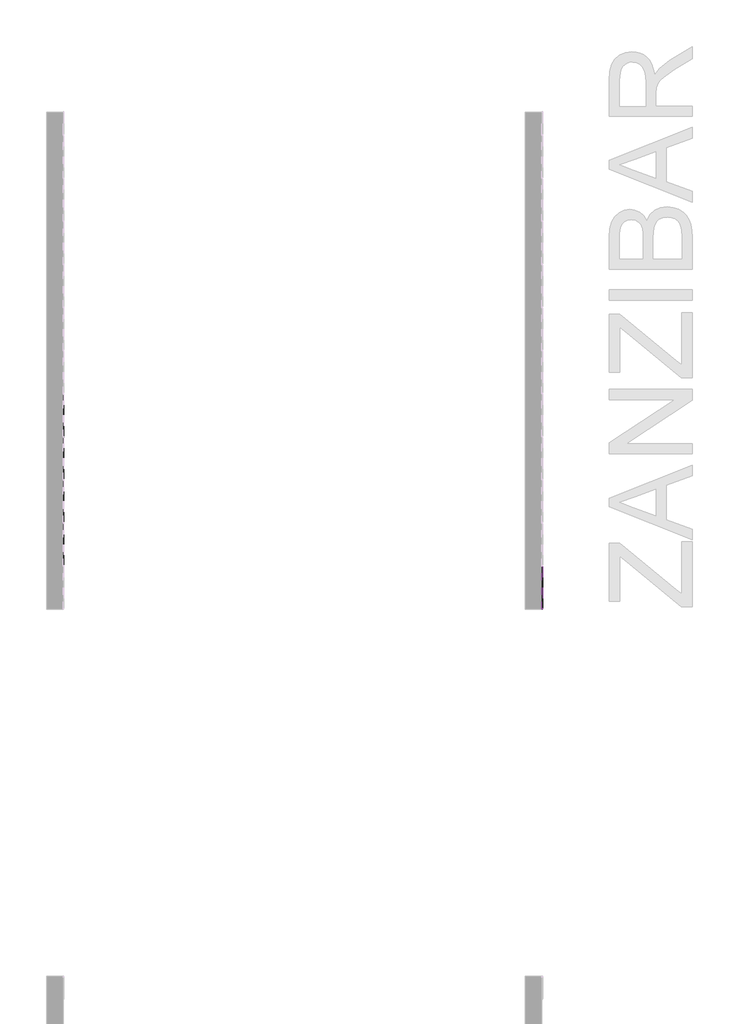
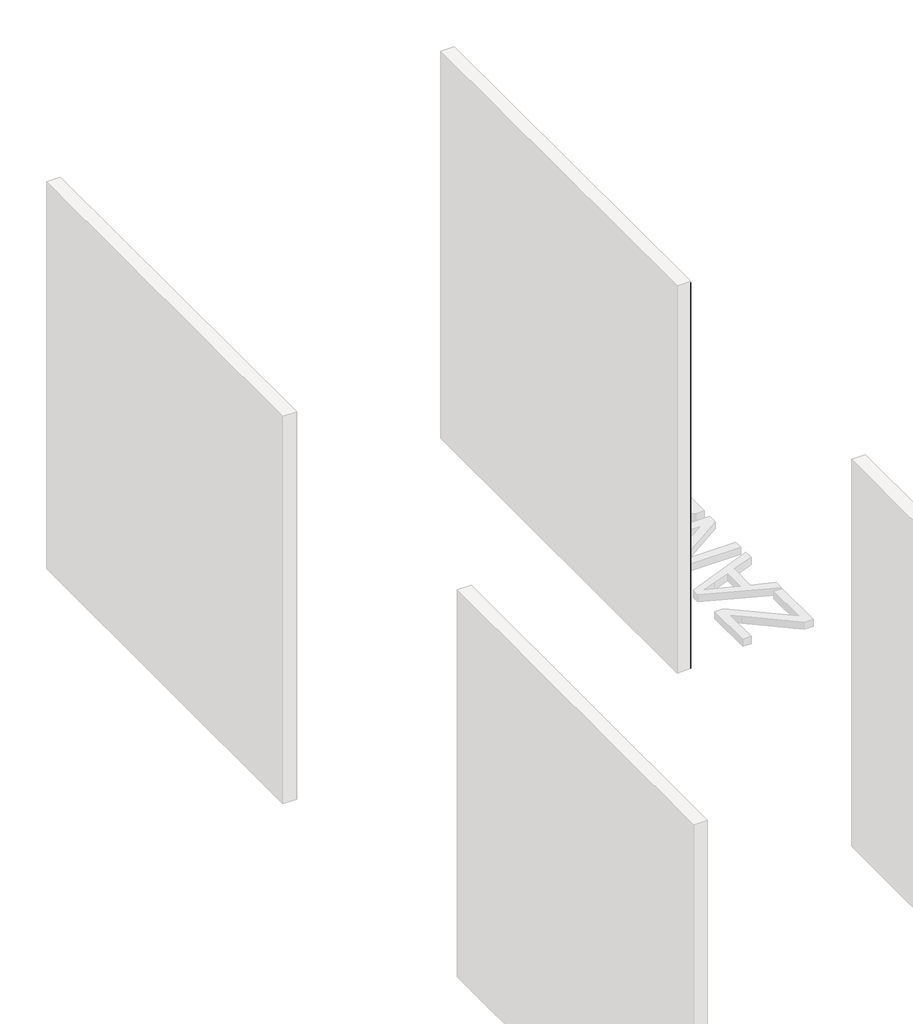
# One storey, part 39 of 45: 147 proxies.
"""IFC4 building model written with IfcOpenShell, lengths in millimetres."""

from ifc_helpers import new_model, si_unit, origin, place, context, project, spatial, transform, mapped, element, save
from components import generic_models_ab0f2c30

model = new_model("IFC4")

# Units and contexts
model_context = context("Model", 3, world=origin())
ifc_project = project(units=[si_unit("LENGTHUNIT", "METRE", prefix="MILLI")], contexts=[model_context])

# Site, building, storey
site = spatial("IfcSite", under=ifc_project)
building = spatial("IfcBuilding", under=site)
storey = spatial("IfcBuildingStorey", under=building, Name="PORTOBELLO - SHOWROOM", Elevation=0.0)

# Proxies
placement = place(None, origin())
generic_models_shape = generic_models_ab0f2c30(model_context)
element("IfcBuildingElementProxy", 1, Name="PBSHOP - HORIZONTES ZANZIBAR 6,5X23 : ZANZIBAR", ObjectType="PBSHOP - HORIZONTES ZANZIBAR 6,5X23 : ZANZIBAR", at=placement, inside=storey, context=model_context, shape_type="MappedRepresentation", body=[
    mapped(generic_models_shape, transform((69111.8826867, 19880.0864672, 34.5), x_axis=(0.0, 0.0, 1.0), y_axis=(0.0, -1.0, 0.0), z_axis=(1.0, 0.0, 0.0))),
])
element("IfcBuildingElementProxy", 2, Name="PBSHOP - HORIZONTES ZANZIBAR 6,5X23 : ZANZIBAR", ObjectType="PBSHOP - HORIZONTES ZANZIBAR 6,5X23 : ZANZIBAR", at=placement, inside=storey, context=model_context, shape_type="MappedRepresentation", body=[
    mapped(generic_models_shape, transform((69111.8826867, 19880.0864672, 103.5), x_axis=(0.0, 0.0, 1.0), y_axis=(0.0, -1.0, 0.0), z_axis=(1.0, 0.0, 0.0))),
])
element("IfcBuildingElementProxy", 3, Name="PBSHOP - HORIZONTES ZANZIBAR 6,5X23 : ZANZIBAR", ObjectType="PBSHOP - HORIZONTES ZANZIBAR 6,5X23 : ZANZIBAR", at=placement, inside=storey, context=model_context, shape_type="MappedRepresentation", body=[
    mapped(generic_models_shape, transform((69111.8826867, 19880.0864672, 172.5), x_axis=(0.0, 0.0, 1.0), y_axis=(0.0, -1.0, 0.0), z_axis=(1.0, 0.0, 0.0))),
])
element("IfcBuildingElementProxy", 4, Name="PBSHOP - HORIZONTES ZANZIBAR 6,5X23 : ZANZIBAR", ObjectType="PBSHOP - HORIZONTES ZANZIBAR 6,5X23 : ZANZIBAR", at=placement, inside=storey, context=model_context, shape_type="MappedRepresentation", body=[
    mapped(generic_models_shape, transform((69111.8826867, 19880.0864672, 241.5), x_axis=(0.0, 0.0, 1.0), y_axis=(0.0, -1.0, 0.0), z_axis=(1.0, 0.0, 0.0))),
])
element("IfcBuildingElementProxy", 5, Name="PBSHOP - HORIZONTES ZANZIBAR 6,5X23 : ZANZIBAR", ObjectType="PBSHOP - HORIZONTES ZANZIBAR 6,5X23 : ZANZIBAR", at=placement, inside=storey, context=model_context, shape_type="MappedRepresentation", body=[
    mapped(generic_models_shape, transform((69111.8826867, 19880.0864672, 310.5), x_axis=(0.0, 0.0, 1.0), y_axis=(0.0, -1.0, 0.0), z_axis=(1.0, 0.0, 0.0))),
])
element("IfcBuildingElementProxy", 6, Name="PBSHOP - HORIZONTES ZANZIBAR 6,5X23 : ZANZIBAR", ObjectType="PBSHOP - HORIZONTES ZANZIBAR 6,5X23 : ZANZIBAR", at=placement, inside=storey, context=model_context, shape_type="MappedRepresentation", body=[
    mapped(generic_models_shape, transform((69111.8826867, 19880.0864672, 379.5), x_axis=(0.0, 0.0, 1.0), y_axis=(0.0, -1.0, 0.0), z_axis=(1.0, 0.0, 0.0))),
])
element("IfcBuildingElementProxy", 7, Name="PBSHOP - HORIZONTES ZANZIBAR 6,5X23 : ZANZIBAR", ObjectType="PBSHOP - HORIZONTES ZANZIBAR 6,5X23 : ZANZIBAR", at=placement, inside=storey, context=model_context, shape_type="MappedRepresentation", body=[
    mapped(generic_models_shape, transform((69111.8826867, 19880.0864672, 448.5), x_axis=(0.0, 0.0, 1.0), y_axis=(0.0, -1.0, 0.0), z_axis=(1.0, 0.0, 0.0))),
])
element("IfcBuildingElementProxy", 8, Name="PBSHOP - HORIZONTES ZANZIBAR 6,5X23 : ZANZIBAR", ObjectType="PBSHOP - HORIZONTES ZANZIBAR 6,5X23 : ZANZIBAR", at=placement, inside=storey, context=model_context, shape_type="MappedRepresentation", body=[
    mapped(generic_models_shape, transform((69111.8826867, 19880.0864672, 517.5), x_axis=(0.0, 0.0, 1.0), y_axis=(0.0, -1.0, 0.0), z_axis=(1.0, 0.0, 0.0))),
])
element("IfcBuildingElementProxy", 9, Name="PBSHOP - HORIZONTES ZANZIBAR 6,5X23 : ZANZIBAR", ObjectType="PBSHOP - HORIZONTES ZANZIBAR 6,5X23 : ZANZIBAR", at=placement, inside=storey, context=model_context, shape_type="MappedRepresentation", body=[
    mapped(generic_models_shape, transform((69111.8826867, 19880.0864672, 586.5), x_axis=(0.0, 0.0, 1.0), y_axis=(0.0, -1.0, 0.0), z_axis=(1.0, 0.0, 0.0))),
])
element("IfcBuildingElementProxy", 10, Name="PBSHOP - HORIZONTES ZANZIBAR 6,5X23 : ZANZIBAR", ObjectType="PBSHOP - HORIZONTES ZANZIBAR 6,5X23 : ZANZIBAR", at=placement, inside=storey, context=model_context, shape_type="MappedRepresentation", body=[
    mapped(generic_models_shape, transform((69111.8826867, 19880.0864672, 655.5), x_axis=(0.0, 0.0, 1.0), y_axis=(0.0, -1.0, 0.0), z_axis=(1.0, 0.0, 0.0))),
])
element("IfcBuildingElementProxy", 11, Name="PBSHOP - HORIZONTES ZANZIBAR 6,5X23 : ZANZIBAR", ObjectType="PBSHOP - HORIZONTES ZANZIBAR 6,5X23 : ZANZIBAR", at=placement, inside=storey, context=model_context, shape_type="MappedRepresentation", body=[
    mapped(generic_models_shape, transform((69111.8826867, 19880.0864672, 724.5), x_axis=(0.0, 0.0, 1.0), y_axis=(0.0, -1.0, 0.0), z_axis=(1.0, 0.0, 0.0))),
])
element("IfcBuildingElementProxy", 12, Name="PBSHOP - HORIZONTES ZANZIBAR 6,5X23 : ZANZIBAR", ObjectType="PBSHOP - HORIZONTES ZANZIBAR 6,5X23 : ZANZIBAR", at=placement, inside=storey, context=model_context, shape_type="MappedRepresentation", body=[
    mapped(generic_models_shape, transform((69111.8826867, 19880.0864672, 793.5), x_axis=(0.0, 0.0, 1.0), y_axis=(0.0, -1.0, 0.0), z_axis=(1.0, 0.0, 0.0))),
])
element("IfcBuildingElementProxy", 13, Name="PBSHOP - HORIZONTES ZANZIBAR 6,5X23 : ZANZIBAR", ObjectType="PBSHOP - HORIZONTES ZANZIBAR 6,5X23 : ZANZIBAR", at=placement, inside=storey, context=model_context, shape_type="MappedRepresentation", body=[
    mapped(generic_models_shape, transform((69111.8826867, 19880.0864672, 862.5), x_axis=(0.0, 0.0, 1.0), y_axis=(0.0, -1.0, 0.0), z_axis=(1.0, 0.0, 0.0))),
])
element("IfcBuildingElementProxy", 14, Name="PBSHOP - HORIZONTES ZANZIBAR 6,5X23 : ZANZIBAR", ObjectType="PBSHOP - HORIZONTES ZANZIBAR 6,5X23 : ZANZIBAR", at=placement, inside=storey, context=model_context, shape_type="MappedRepresentation", body=[
    mapped(generic_models_shape, transform((69111.8826867, 19880.0864672, 931.5), x_axis=(0.0, 0.0, 1.0), y_axis=(0.0, -1.0, 0.0), z_axis=(1.0, 0.0, 0.0))),
])
element("IfcBuildingElementProxy", 15, Name="PBSHOP - HORIZONTES ZANZIBAR 6,5X23 : ZANZIBAR", ObjectType="PBSHOP - HORIZONTES ZANZIBAR 6,5X23 : ZANZIBAR", at=placement, inside=storey, context=model_context, shape_type="MappedRepresentation", body=[
    mapped(generic_models_shape, transform((69111.8826867, 19880.0864672, 1000.5), x_axis=(0.0, 0.0, 1.0), y_axis=(0.0, -1.0, 0.0), z_axis=(1.0, 0.0, 0.0))),
])
element("IfcBuildingElementProxy", 16, Name="PBSHOP - HORIZONTES ZANZIBAR 6,5X23 : ZANZIBAR", ObjectType="PBSHOP - HORIZONTES ZANZIBAR 6,5X23 : ZANZIBAR", at=placement, inside=storey, context=model_context, shape_type="MappedRepresentation", body=[
    mapped(generic_models_shape, transform((69111.8826867, 19880.0864672, 1069.5), x_axis=(0.0, 0.0, 1.0), y_axis=(0.0, -1.0, 0.0), z_axis=(1.0, 0.0, 0.0))),
])
element("IfcBuildingElementProxy", 17, Name="PBSHOP - HORIZONTES ZANZIBAR 6,5X23 : ZANZIBAR", ObjectType="PBSHOP - HORIZONTES ZANZIBAR 6,5X23 : ZANZIBAR", at=placement, inside=storey, context=model_context, shape_type="MappedRepresentation", body=[
    mapped(generic_models_shape, transform((69111.8826867, 19880.0864672, 1138.5), x_axis=(0.0, 0.0, 1.0), y_axis=(0.0, -1.0, 0.0), z_axis=(1.0, 0.0, 0.0))),
])
element("IfcBuildingElementProxy", 18, Name="PBSHOP - HORIZONTES ZANZIBAR 6,5X23 : ZANZIBAR", ObjectType="PBSHOP - HORIZONTES ZANZIBAR 6,5X23 : ZANZIBAR", at=placement, inside=storey, context=model_context, shape_type="MappedRepresentation", body=[
    mapped(generic_models_shape, transform((69111.8826867, 19880.0864672, 1207.5), x_axis=(0.0, 0.0, 1.0), y_axis=(0.0, -1.0, 0.0), z_axis=(1.0, 0.0, 0.0))),
])
element("IfcBuildingElementProxy", 19, Name="PBSHOP - HORIZONTES ZANZIBAR 6,5X23 : ZANZIBAR", ObjectType="PBSHOP - HORIZONTES ZANZIBAR 6,5X23 : ZANZIBAR", at=placement, inside=storey, context=model_context, shape_type="MappedRepresentation", body=[
    mapped(generic_models_shape, transform((69111.8826867, 19880.0864672, 1276.5), x_axis=(0.0, 0.0, 1.0), y_axis=(0.0, -1.0, 0.0), z_axis=(1.0, 0.0, 0.0))),
])
element("IfcBuildingElementProxy", 20, Name="PBSHOP - HORIZONTES ZANZIBAR 6,5X23 : ZANZIBAR", ObjectType="PBSHOP - HORIZONTES ZANZIBAR 6,5X23 : ZANZIBAR", at=placement, inside=storey, context=model_context, shape_type="MappedRepresentation", body=[
    mapped(generic_models_shape, transform((69111.8826867, 19880.0864672, 1345.5), x_axis=(0.0, 0.0, 1.0), y_axis=(0.0, -1.0, 0.0), z_axis=(1.0, 0.0, 0.0))),
])
element("IfcBuildingElementProxy", 21, Name="PBSHOP - HORIZONTES ZANZIBAR 6,5X23 : ZANZIBAR", ObjectType="PBSHOP - HORIZONTES ZANZIBAR 6,5X23 : ZANZIBAR", at=placement, inside=storey, context=model_context, shape_type="MappedRepresentation", body=[
    mapped(generic_models_shape, transform((69111.8826867, 19880.0864672, 1414.5), x_axis=(0.0, 0.0, 1.0), y_axis=(0.0, -1.0, 0.0), z_axis=(1.0, 0.0, 0.0))),
])
element("IfcBuildingElementProxy", 22, Name="PBSHOP - HORIZONTES ZANZIBAR 6,5X23 : ZANZIBAR", ObjectType="PBSHOP - HORIZONTES ZANZIBAR 6,5X23 : ZANZIBAR", at=placement, inside=storey, context=model_context, shape_type="MappedRepresentation", body=[
    mapped(generic_models_shape, transform((69111.8826867, 19880.0864672, 1483.5), x_axis=(0.0, 0.0, 1.0), y_axis=(0.0, -1.0, 0.0), z_axis=(1.0, 0.0, 0.0))),
])
element("IfcBuildingElementProxy", 23, Name="PBSHOP - HORIZONTES ZANZIBAR 6,5X23 : ZANZIBAR", ObjectType="PBSHOP - HORIZONTES ZANZIBAR 6,5X23 : ZANZIBAR", at=placement, inside=storey, context=model_context, shape_type="MappedRepresentation", body=[
    mapped(generic_models_shape, transform((69111.8826867, 19880.0864672, 1552.5), x_axis=(0.0, 0.0, 1.0), y_axis=(0.0, -1.0, 0.0), z_axis=(1.0, 0.0, 0.0))),
])
element("IfcBuildingElementProxy", 24, Name="PBSHOP - HORIZONTES ZANZIBAR 6,5X23 : ZANZIBAR", ObjectType="PBSHOP - HORIZONTES ZANZIBAR 6,5X23 : ZANZIBAR", at=placement, inside=storey, context=model_context, shape_type="MappedRepresentation", body=[
    mapped(generic_models_shape, transform((69111.8826867, 19880.0864672, 1621.5), x_axis=(0.0, 0.0, 1.0), y_axis=(0.0, -1.0, 0.0), z_axis=(1.0, 0.0, 0.0))),
])
element("IfcBuildingElementProxy", 25, Name="PBSHOP - HORIZONTES ZANZIBAR 6,5X23 : ZANZIBAR", ObjectType="PBSHOP - HORIZONTES ZANZIBAR 6,5X23 : ZANZIBAR", at=placement, inside=storey, context=model_context, shape_type="MappedRepresentation", body=[
    mapped(generic_models_shape, transform((69111.8826867, 19880.0864672, 1690.5), x_axis=(0.0, 0.0, 1.0), y_axis=(0.0, -1.0, 0.0), z_axis=(1.0, 0.0, 0.0))),
])
element("IfcBuildingElementProxy", 26, Name="PBSHOP - HORIZONTES ZANZIBAR 6,5X23 : ZANZIBAR", ObjectType="PBSHOP - HORIZONTES ZANZIBAR 6,5X23 : ZANZIBAR", at=placement, inside=storey, context=model_context, shape_type="MappedRepresentation", body=[
    mapped(generic_models_shape, transform((69111.8826867, 19880.0864672, 1759.5), x_axis=(0.0, 0.0, 1.0), y_axis=(0.0, -1.0, 0.0), z_axis=(1.0, 0.0, 0.0))),
])
element("IfcBuildingElementProxy", 27, Name="PBSHOP - HORIZONTES ZANZIBAR 6,5X23 : ZANZIBAR", ObjectType="PBSHOP - HORIZONTES ZANZIBAR 6,5X23 : ZANZIBAR", at=placement, inside=storey, context=model_context, shape_type="MappedRepresentation", body=[
    mapped(generic_models_shape, transform((69111.8826867, 19880.0864672, 1828.5), x_axis=(0.0, 0.0, 1.0), y_axis=(0.0, -1.0, 0.0), z_axis=(1.0, 0.0, 0.0))),
])
element("IfcBuildingElementProxy", 28, Name="PBSHOP - HORIZONTES ZANZIBAR 6,5X23 : ZANZIBAR", ObjectType="PBSHOP - HORIZONTES ZANZIBAR 6,5X23 : ZANZIBAR", at=placement, inside=storey, context=model_context, shape_type="MappedRepresentation", body=[
    mapped(generic_models_shape, transform((69111.8826867, 19880.0864672, 1897.5), x_axis=(0.0, 0.0, 1.0), y_axis=(0.0, -1.0, 0.0), z_axis=(1.0, 0.0, 0.0))),
])
element("IfcBuildingElementProxy", 29, Name="PBSHOP - HORIZONTES ZANZIBAR 6,5X23 : ZANZIBAR", ObjectType="PBSHOP - HORIZONTES ZANZIBAR 6,5X23 : ZANZIBAR", at=placement, inside=storey, context=model_context, shape_type="MappedRepresentation", body=[
    mapped(generic_models_shape, transform((69111.8826867, 19880.0864672, 1966.5), x_axis=(0.0, 0.0, 1.0), y_axis=(0.0, -1.0, 0.0), z_axis=(1.0, 0.0, 0.0))),
])
element("IfcBuildingElementProxy", 30, Name="PBSHOP - HORIZONTES ZANZIBAR 6,5X23 : ZANZIBAR", ObjectType="PBSHOP - HORIZONTES ZANZIBAR 6,5X23 : ZANZIBAR", at=placement, inside=storey, context=model_context, shape_type="MappedRepresentation", body=[
    mapped(generic_models_shape, transform((69111.8826867, 19880.0864672, 2035.5), x_axis=(0.0, 0.0, 1.0), y_axis=(0.0, -1.0, 0.0), z_axis=(1.0, 0.0, 0.0))),
])
element("IfcBuildingElementProxy", 31, Name="PBSHOP - HORIZONTES ZANZIBAR 6,5X23 : ZANZIBAR", ObjectType="PBSHOP - HORIZONTES ZANZIBAR 6,5X23 : ZANZIBAR", at=placement, inside=storey, context=model_context, shape_type="MappedRepresentation", body=[
    mapped(generic_models_shape, transform((69111.8826867, 19880.0864672, 2104.5), x_axis=(0.0, 0.0, 1.0), y_axis=(0.0, -1.0, 0.0), z_axis=(1.0, 0.0, 0.0))),
])
element("IfcBuildingElementProxy", 32, Name="PBSHOP - HORIZONTES ZANZIBAR 6,5X23 : ZANZIBAR", ObjectType="PBSHOP - HORIZONTES ZANZIBAR 6,5X23 : ZANZIBAR", at=placement, inside=storey, context=model_context, shape_type="MappedRepresentation", body=[
    mapped(generic_models_shape, transform((69111.8826867, 19880.0864672, 2173.5), x_axis=(0.0, 0.0, 1.0), y_axis=(0.0, -1.0, 0.0), z_axis=(1.0, 0.0, 0.0))),
])
element("IfcBuildingElementProxy", 33, Name="PBSHOP - HORIZONTES ZANZIBAR 6,5X23 : ZANZIBAR", ObjectType="PBSHOP - HORIZONTES ZANZIBAR 6,5X23 : ZANZIBAR", at=placement, inside=storey, context=model_context, shape_type="MappedRepresentation", body=[
    mapped(generic_models_shape, transform((69111.8826867, 19880.0864672, 2242.5), x_axis=(0.0, 0.0, 1.0), y_axis=(0.0, -1.0, 0.0), z_axis=(1.0, 0.0, 0.0))),
])
element("IfcBuildingElementProxy", 34, Name="PBSHOP - HORIZONTES ZANZIBAR 6,5X23 : ZANZIBAR", ObjectType="PBSHOP - HORIZONTES ZANZIBAR 6,5X23 : ZANZIBAR", at=placement, inside=storey, context=model_context, shape_type="MappedRepresentation", body=[
    mapped(generic_models_shape, transform((69111.8826867, 19880.0864672, 2311.5), x_axis=(0.0, 0.0, 1.0), y_axis=(0.0, -1.0, 0.0), z_axis=(1.0, 0.0, 0.0))),
])
element("IfcBuildingElementProxy", 35, Name="PBSHOP - HORIZONTES ZANZIBAR 6,5X23 : ZANZIBAR", ObjectType="PBSHOP - HORIZONTES ZANZIBAR 6,5X23 : ZANZIBAR", at=placement, inside=storey, context=model_context, shape_type="MappedRepresentation", body=[
    mapped(generic_models_shape, transform((69111.8826867, 19880.0864672, 2380.5), x_axis=(0.0, 0.0, 1.0), y_axis=(0.0, -1.0, 0.0), z_axis=(1.0, 0.0, 0.0))),
])
element("IfcBuildingElementProxy", 36, Name="PBSHOP - HORIZONTES ZANZIBAR 6,5X23 : ZANZIBAR", ObjectType="PBSHOP - HORIZONTES ZANZIBAR 6,5X23 : ZANZIBAR", at=placement, inside=storey, context=model_context, shape_type="MappedRepresentation", body=[
    mapped(generic_models_shape, transform((69111.8826867, 19880.0864672, 2449.5), x_axis=(0.0, 0.0, 1.0), y_axis=(0.0, -1.0, 0.0), z_axis=(1.0, 0.0, 0.0))),
])
element("IfcBuildingElementProxy", 37, Name="PBSHOP - HORIZONTES ZANZIBAR 6,5X23 : ZANZIBAR", ObjectType="PBSHOP - HORIZONTES ZANZIBAR 6,5X23 : ZANZIBAR", at=placement, inside=storey, context=model_context, shape_type="MappedRepresentation", body=[
    mapped(generic_models_shape, transform((69111.8826867, 19880.0864672, 2518.5), x_axis=(0.0, 0.0, 1.0), y_axis=(0.0, -1.0, 0.0), z_axis=(1.0, 0.0, 0.0))),
])
element("IfcBuildingElementProxy", 38, Name="PBSHOP - HORIZONTES ZANZIBAR 6,5X23 : ZANZIBAR", ObjectType="PBSHOP - HORIZONTES ZANZIBAR 6,5X23 : ZANZIBAR", at=placement, inside=storey, context=model_context, shape_type="MappedRepresentation", body=[
    mapped(generic_models_shape, transform((69111.8826867, 19880.0864672, 2587.5), x_axis=(0.0, 0.0, 1.0), y_axis=(0.0, -1.0, 0.0), z_axis=(1.0, 0.0, 0.0))),
])
element("IfcBuildingElementProxy", 39, Name="PBSHOP - HORIZONTES ZANZIBAR 6,5X23 : ZANZIBAR", ObjectType="PBSHOP - HORIZONTES ZANZIBAR 6,5X23 : ZANZIBAR", at=placement, inside=storey, context=model_context, shape_type="MappedRepresentation", body=[
    mapped(generic_models_shape, transform((69111.8826867, 19880.0864672, 2656.5), x_axis=(0.0, 0.0, 1.0), y_axis=(0.0, -1.0, 0.0), z_axis=(1.0, 0.0, 0.0))),
])
element("IfcBuildingElementProxy", 40, Name="PBSHOP - HORIZONTES ZANZIBAR 6,5X23 : ZANZIBAR ARQUIPELAGO", ObjectType="PBSHOP - HORIZONTES ZANZIBAR 6,5X23 : ZANZIBAR ARQUIPELAGO", at=placement, inside=storey, context=model_context, shape_type="MappedRepresentation", body=[
    mapped(generic_models_shape, transform((66511.8826867, 20114.0864672, 34.5), x_axis=(0.0, 0.0, 1.0), y_axis=(0.0, -1.0, 0.0), z_axis=(1.0, 0.0, 0.0))),
])
element("IfcBuildingElementProxy", 41, Name="PBSHOP - HORIZONTES ZANZIBAR 6,5X23 : ZANZIBAR ARQUIPELAGO", ObjectType="PBSHOP - HORIZONTES ZANZIBAR 6,5X23 : ZANZIBAR ARQUIPELAGO", at=placement, inside=storey, context=model_context, shape_type="MappedRepresentation", body=[
    mapped(generic_models_shape, transform((66511.8826867, 20348.0864672, 34.5), x_axis=(0.0, 0.0, 1.0), y_axis=(0.0, -1.0, 0.0), z_axis=(1.0, 0.0, 0.0))),
])
element("IfcBuildingElementProxy", 42, Name="PBSHOP - HORIZONTES ZANZIBAR 6,5X23 : ZANZIBAR ARQUIPELAGO", ObjectType="PBSHOP - HORIZONTES ZANZIBAR 6,5X23 : ZANZIBAR ARQUIPELAGO", at=placement, inside=storey, context=model_context, shape_type="MappedRepresentation", body=[
    mapped(generic_models_shape, transform((66511.8826867, 20582.0864672, 34.5), x_axis=(0.0, 0.0, 1.0), y_axis=(0.0, -1.0, 0.0), z_axis=(1.0, 0.0, 0.0))),
])
element("IfcBuildingElementProxy", 43, Name="PBSHOP - HORIZONTES ZANZIBAR 6,5X23 : ZANZIBAR ARQUIPELAGO", ObjectType="PBSHOP - HORIZONTES ZANZIBAR 6,5X23 : ZANZIBAR ARQUIPELAGO", at=placement, inside=storey, context=model_context, shape_type="MappedRepresentation", body=[
    mapped(generic_models_shape, transform((66511.8826867, 20816.0864672, 34.5), x_axis=(0.0, 0.0, 1.0), y_axis=(0.0, -1.0, 0.0), z_axis=(1.0, 0.0, 0.0))),
])
element("IfcBuildingElementProxy", 44, Name="PBSHOP - HORIZONTES ZANZIBAR 6,5X23 : ZANZIBAR ARQUIPELAGO", ObjectType="PBSHOP - HORIZONTES ZANZIBAR 6,5X23 : ZANZIBAR ARQUIPELAGO", at=placement, inside=storey, context=model_context, shape_type="MappedRepresentation", body=[
    mapped(generic_models_shape, transform((66511.8826867, 20114.0864672, 103.5), x_axis=(0.0, 0.0, 1.0), y_axis=(0.0, -1.0, 0.0), z_axis=(1.0, 0.0, 0.0))),
])
element("IfcBuildingElementProxy", 45, Name="PBSHOP - HORIZONTES ZANZIBAR 6,5X23 : ZANZIBAR ARQUIPELAGO", ObjectType="PBSHOP - HORIZONTES ZANZIBAR 6,5X23 : ZANZIBAR ARQUIPELAGO", at=placement, inside=storey, context=model_context, shape_type="MappedRepresentation", body=[
    mapped(generic_models_shape, transform((66511.8826867, 20348.0864672, 103.5), x_axis=(0.0, 0.0, 1.0), y_axis=(0.0, -1.0, 0.0), z_axis=(1.0, 0.0, 0.0))),
])
element("IfcBuildingElementProxy", 46, Name="PBSHOP - HORIZONTES ZANZIBAR 6,5X23 : ZANZIBAR ARQUIPELAGO", ObjectType="PBSHOP - HORIZONTES ZANZIBAR 6,5X23 : ZANZIBAR ARQUIPELAGO", at=placement, inside=storey, context=model_context, shape_type="MappedRepresentation", body=[
    mapped(generic_models_shape, transform((66511.8826867, 20582.0864672, 103.5), x_axis=(0.0, 0.0, 1.0), y_axis=(0.0, -1.0, 0.0), z_axis=(1.0, 0.0, 0.0))),
])
element("IfcBuildingElementProxy", 47, Name="PBSHOP - HORIZONTES ZANZIBAR 6,5X23 : ZANZIBAR ARQUIPELAGO", ObjectType="PBSHOP - HORIZONTES ZANZIBAR 6,5X23 : ZANZIBAR ARQUIPELAGO", at=placement, inside=storey, context=model_context, shape_type="MappedRepresentation", body=[
    mapped(generic_models_shape, transform((66511.8826867, 20816.0864672, 103.5), x_axis=(0.0, 0.0, 1.0), y_axis=(0.0, -1.0, 0.0), z_axis=(1.0, 0.0, 0.0))),
])
element("IfcBuildingElementProxy", 48, Name="PBSHOP - HORIZONTES ZANZIBAR 6,5X23 : ZANZIBAR ARQUIPELAGO", ObjectType="PBSHOP - HORIZONTES ZANZIBAR 6,5X23 : ZANZIBAR ARQUIPELAGO", at=placement, inside=storey, context=model_context, shape_type="MappedRepresentation", body=[
    mapped(generic_models_shape, transform((66511.8826867, 20114.0864672, 172.5), x_axis=(0.0, 0.0, 1.0), y_axis=(0.0, -1.0, 0.0), z_axis=(1.0, 0.0, 0.0))),
])
element("IfcBuildingElementProxy", 49, Name="PBSHOP - HORIZONTES ZANZIBAR 6,5X23 : ZANZIBAR ARQUIPELAGO", ObjectType="PBSHOP - HORIZONTES ZANZIBAR 6,5X23 : ZANZIBAR ARQUIPELAGO", at=placement, inside=storey, context=model_context, shape_type="MappedRepresentation", body=[
    mapped(generic_models_shape, transform((66511.8826867, 20348.0864672, 172.5), x_axis=(0.0, 0.0, 1.0), y_axis=(0.0, -1.0, 0.0), z_axis=(1.0, 0.0, 0.0))),
])
element("IfcBuildingElementProxy", 50, Name="PBSHOP - HORIZONTES ZANZIBAR 6,5X23 : ZANZIBAR ARQUIPELAGO", ObjectType="PBSHOP - HORIZONTES ZANZIBAR 6,5X23 : ZANZIBAR ARQUIPELAGO", at=placement, inside=storey, context=model_context, shape_type="MappedRepresentation", body=[
    mapped(generic_models_shape, transform((66511.8826867, 20582.0864672, 172.5), x_axis=(0.0, 0.0, 1.0), y_axis=(0.0, -1.0, 0.0), z_axis=(1.0, 0.0, 0.0))),
])
element("IfcBuildingElementProxy", 51, Name="PBSHOP - HORIZONTES ZANZIBAR 6,5X23 : ZANZIBAR ARQUIPELAGO", ObjectType="PBSHOP - HORIZONTES ZANZIBAR 6,5X23 : ZANZIBAR ARQUIPELAGO", at=placement, inside=storey, context=model_context, shape_type="MappedRepresentation", body=[
    mapped(generic_models_shape, transform((66511.8826867, 20816.0864672, 172.5), x_axis=(0.0, 0.0, 1.0), y_axis=(0.0, -1.0, 0.0), z_axis=(1.0, 0.0, 0.0))),
])
element("IfcBuildingElementProxy", 52, Name="PBSHOP - HORIZONTES ZANZIBAR 6,5X23 : ZANZIBAR ARQUIPELAGO", ObjectType="PBSHOP - HORIZONTES ZANZIBAR 6,5X23 : ZANZIBAR ARQUIPELAGO", at=placement, inside=storey, context=model_context, shape_type="MappedRepresentation", body=[
    mapped(generic_models_shape, transform((66511.8826867, 20114.0864672, 241.5), x_axis=(0.0, 0.0, 1.0), y_axis=(0.0, -1.0, 0.0), z_axis=(1.0, 0.0, 0.0))),
])
element("IfcBuildingElementProxy", 53, Name="PBSHOP - HORIZONTES ZANZIBAR 6,5X23 : ZANZIBAR ARQUIPELAGO", ObjectType="PBSHOP - HORIZONTES ZANZIBAR 6,5X23 : ZANZIBAR ARQUIPELAGO", at=placement, inside=storey, context=model_context, shape_type="MappedRepresentation", body=[
    mapped(generic_models_shape, transform((66511.8826867, 20348.0864672, 241.5), x_axis=(0.0, 0.0, 1.0), y_axis=(0.0, -1.0, 0.0), z_axis=(1.0, 0.0, 0.0))),
])
element("IfcBuildingElementProxy", 54, Name="PBSHOP - HORIZONTES ZANZIBAR 6,5X23 : ZANZIBAR ARQUIPELAGO", ObjectType="PBSHOP - HORIZONTES ZANZIBAR 6,5X23 : ZANZIBAR ARQUIPELAGO", at=placement, inside=storey, context=model_context, shape_type="MappedRepresentation", body=[
    mapped(generic_models_shape, transform((66511.8826867, 20582.0864672, 241.5), x_axis=(0.0, 0.0, 1.0), y_axis=(0.0, -1.0, 0.0), z_axis=(1.0, 0.0, 0.0))),
])
element("IfcBuildingElementProxy", 55, Name="PBSHOP - HORIZONTES ZANZIBAR 6,5X23 : ZANZIBAR ARQUIPELAGO", ObjectType="PBSHOP - HORIZONTES ZANZIBAR 6,5X23 : ZANZIBAR ARQUIPELAGO", at=placement, inside=storey, context=model_context, shape_type="MappedRepresentation", body=[
    mapped(generic_models_shape, transform((66511.8826867, 20816.0864672, 241.5), x_axis=(0.0, 0.0, 1.0), y_axis=(0.0, -1.0, 0.0), z_axis=(1.0, 0.0, 0.0))),
])
element("IfcBuildingElementProxy", 56, Name="PBSHOP - HORIZONTES ZANZIBAR 6,5X23 : ZANZIBAR ARQUIPELAGO", ObjectType="PBSHOP - HORIZONTES ZANZIBAR 6,5X23 : ZANZIBAR ARQUIPELAGO", at=placement, inside=storey, context=model_context, shape_type="MappedRepresentation", body=[
    mapped(generic_models_shape, transform((66511.8826867, 20114.0864672, 310.5), x_axis=(0.0, 0.0, 1.0), y_axis=(0.0, -1.0, 0.0), z_axis=(1.0, 0.0, 0.0))),
])
element("IfcBuildingElementProxy", 57, Name="PBSHOP - HORIZONTES ZANZIBAR 6,5X23 : ZANZIBAR ARQUIPELAGO", ObjectType="PBSHOP - HORIZONTES ZANZIBAR 6,5X23 : ZANZIBAR ARQUIPELAGO", at=placement, inside=storey, context=model_context, shape_type="MappedRepresentation", body=[
    mapped(generic_models_shape, transform((66511.8826867, 20348.0864672, 310.5), x_axis=(0.0, 0.0, 1.0), y_axis=(0.0, -1.0, 0.0), z_axis=(1.0, 0.0, 0.0))),
])
element("IfcBuildingElementProxy", 58, Name="PBSHOP - HORIZONTES ZANZIBAR 6,5X23 : ZANZIBAR ARQUIPELAGO", ObjectType="PBSHOP - HORIZONTES ZANZIBAR 6,5X23 : ZANZIBAR ARQUIPELAGO", at=placement, inside=storey, context=model_context, shape_type="MappedRepresentation", body=[
    mapped(generic_models_shape, transform((66511.8826867, 20582.0864672, 310.5), x_axis=(0.0, 0.0, 1.0), y_axis=(0.0, -1.0, 0.0), z_axis=(1.0, 0.0, 0.0))),
])
element("IfcBuildingElementProxy", 59, Name="PBSHOP - HORIZONTES ZANZIBAR 6,5X23 : ZANZIBAR ARQUIPELAGO", ObjectType="PBSHOP - HORIZONTES ZANZIBAR 6,5X23 : ZANZIBAR ARQUIPELAGO", at=placement, inside=storey, context=model_context, shape_type="MappedRepresentation", body=[
    mapped(generic_models_shape, transform((66511.8826867, 20816.0864672, 310.5), x_axis=(0.0, 0.0, 1.0), y_axis=(0.0, -1.0, 0.0), z_axis=(1.0, 0.0, 0.0))),
])
element("IfcBuildingElementProxy", 60, Name="PBSHOP - HORIZONTES ZANZIBAR 6,5X23 : ZANZIBAR ARQUIPELAGO", ObjectType="PBSHOP - HORIZONTES ZANZIBAR 6,5X23 : ZANZIBAR ARQUIPELAGO", at=placement, inside=storey, context=model_context, shape_type="MappedRepresentation", body=[
    mapped(generic_models_shape, transform((66511.8826867, 20114.0864672, 379.5), x_axis=(0.0, 0.0, 1.0), y_axis=(0.0, -1.0, 0.0), z_axis=(1.0, 0.0, 0.0))),
])
element("IfcBuildingElementProxy", 61, Name="PBSHOP - HORIZONTES ZANZIBAR 6,5X23 : ZANZIBAR ARQUIPELAGO", ObjectType="PBSHOP - HORIZONTES ZANZIBAR 6,5X23 : ZANZIBAR ARQUIPELAGO", at=placement, inside=storey, context=model_context, shape_type="MappedRepresentation", body=[
    mapped(generic_models_shape, transform((66511.8826867, 20348.0864672, 379.5), x_axis=(0.0, 0.0, 1.0), y_axis=(0.0, -1.0, 0.0), z_axis=(1.0, 0.0, 0.0))),
])
element("IfcBuildingElementProxy", 62, Name="PBSHOP - HORIZONTES ZANZIBAR 6,5X23 : ZANZIBAR ARQUIPELAGO", ObjectType="PBSHOP - HORIZONTES ZANZIBAR 6,5X23 : ZANZIBAR ARQUIPELAGO", at=placement, inside=storey, context=model_context, shape_type="MappedRepresentation", body=[
    mapped(generic_models_shape, transform((66511.8826867, 20582.0864672, 379.5), x_axis=(0.0, 0.0, 1.0), y_axis=(0.0, -1.0, 0.0), z_axis=(1.0, 0.0, 0.0))),
])
element("IfcBuildingElementProxy", 63, Name="PBSHOP - HORIZONTES ZANZIBAR 6,5X23 : ZANZIBAR ARQUIPELAGO", ObjectType="PBSHOP - HORIZONTES ZANZIBAR 6,5X23 : ZANZIBAR ARQUIPELAGO", at=placement, inside=storey, context=model_context, shape_type="MappedRepresentation", body=[
    mapped(generic_models_shape, transform((66511.8826867, 20816.0864672, 379.5), x_axis=(0.0, 0.0, 1.0), y_axis=(0.0, -1.0, 0.0), z_axis=(1.0, 0.0, 0.0))),
])
element("IfcBuildingElementProxy", 64, Name="PBSHOP - HORIZONTES ZANZIBAR 6,5X23 : ZANZIBAR ARQUIPELAGO", ObjectType="PBSHOP - HORIZONTES ZANZIBAR 6,5X23 : ZANZIBAR ARQUIPELAGO", at=placement, inside=storey, context=model_context, shape_type="MappedRepresentation", body=[
    mapped(generic_models_shape, transform((66511.8826867, 20114.0864672, 448.5), x_axis=(0.0, 0.0, 1.0), y_axis=(0.0, -1.0, 0.0), z_axis=(1.0, 0.0, 0.0))),
])
element("IfcBuildingElementProxy", 65, Name="PBSHOP - HORIZONTES ZANZIBAR 6,5X23 : ZANZIBAR ARQUIPELAGO", ObjectType="PBSHOP - HORIZONTES ZANZIBAR 6,5X23 : ZANZIBAR ARQUIPELAGO", at=placement, inside=storey, context=model_context, shape_type="MappedRepresentation", body=[
    mapped(generic_models_shape, transform((66511.8826867, 20348.0864672, 448.5), x_axis=(0.0, 0.0, 1.0), y_axis=(0.0, -1.0, 0.0), z_axis=(1.0, 0.0, 0.0))),
])
element("IfcBuildingElementProxy", 66, Name="PBSHOP - HORIZONTES ZANZIBAR 6,5X23 : ZANZIBAR ARQUIPELAGO", ObjectType="PBSHOP - HORIZONTES ZANZIBAR 6,5X23 : ZANZIBAR ARQUIPELAGO", at=placement, inside=storey, context=model_context, shape_type="MappedRepresentation", body=[
    mapped(generic_models_shape, transform((66511.8826867, 20582.0864672, 448.5), x_axis=(0.0, 0.0, 1.0), y_axis=(0.0, -1.0, 0.0), z_axis=(1.0, 0.0, 0.0))),
])
element("IfcBuildingElementProxy", 67, Name="PBSHOP - HORIZONTES ZANZIBAR 6,5X23 : ZANZIBAR ARQUIPELAGO", ObjectType="PBSHOP - HORIZONTES ZANZIBAR 6,5X23 : ZANZIBAR ARQUIPELAGO", at=placement, inside=storey, context=model_context, shape_type="MappedRepresentation", body=[
    mapped(generic_models_shape, transform((66511.8826867, 20816.0864672, 448.5), x_axis=(0.0, 0.0, 1.0), y_axis=(0.0, -1.0, 0.0), z_axis=(1.0, 0.0, 0.0))),
])
element("IfcBuildingElementProxy", 68, Name="PBSHOP - HORIZONTES ZANZIBAR 6,5X23 : ZANZIBAR ARQUIPELAGO", ObjectType="PBSHOP - HORIZONTES ZANZIBAR 6,5X23 : ZANZIBAR ARQUIPELAGO", at=placement, inside=storey, context=model_context, shape_type="MappedRepresentation", body=[
    mapped(generic_models_shape, transform((66511.8826867, 20114.0864672, 517.5), x_axis=(0.0, 0.0, 1.0), y_axis=(0.0, -1.0, 0.0), z_axis=(1.0, 0.0, 0.0))),
])
element("IfcBuildingElementProxy", 69, Name="PBSHOP - HORIZONTES ZANZIBAR 6,5X23 : ZANZIBAR ARQUIPELAGO", ObjectType="PBSHOP - HORIZONTES ZANZIBAR 6,5X23 : ZANZIBAR ARQUIPELAGO", at=placement, inside=storey, context=model_context, shape_type="MappedRepresentation", body=[
    mapped(generic_models_shape, transform((66511.8826867, 20348.0864672, 517.5), x_axis=(0.0, 0.0, 1.0), y_axis=(0.0, -1.0, 0.0), z_axis=(1.0, 0.0, 0.0))),
])
element("IfcBuildingElementProxy", 70, Name="PBSHOP - HORIZONTES ZANZIBAR 6,5X23 : ZANZIBAR ARQUIPELAGO", ObjectType="PBSHOP - HORIZONTES ZANZIBAR 6,5X23 : ZANZIBAR ARQUIPELAGO", at=placement, inside=storey, context=model_context, shape_type="MappedRepresentation", body=[
    mapped(generic_models_shape, transform((66511.8826867, 20582.0864672, 517.5), x_axis=(0.0, 0.0, 1.0), y_axis=(0.0, -1.0, 0.0), z_axis=(1.0, 0.0, 0.0))),
])
element("IfcBuildingElementProxy", 71, Name="PBSHOP - HORIZONTES ZANZIBAR 6,5X23 : ZANZIBAR ARQUIPELAGO", ObjectType="PBSHOP - HORIZONTES ZANZIBAR 6,5X23 : ZANZIBAR ARQUIPELAGO", at=placement, inside=storey, context=model_context, shape_type="MappedRepresentation", body=[
    mapped(generic_models_shape, transform((66511.8826867, 20816.0864672, 517.5), x_axis=(0.0, 0.0, 1.0), y_axis=(0.0, -1.0, 0.0), z_axis=(1.0, 0.0, 0.0))),
])
element("IfcBuildingElementProxy", 72, Name="PBSHOP - HORIZONTES ZANZIBAR 6,5X23 : ZANZIBAR ARQUIPELAGO", ObjectType="PBSHOP - HORIZONTES ZANZIBAR 6,5X23 : ZANZIBAR ARQUIPELAGO", at=placement, inside=storey, context=model_context, shape_type="MappedRepresentation", body=[
    mapped(generic_models_shape, transform((66511.8826867, 20114.0864672, 586.5), x_axis=(0.0, 0.0, 1.0), y_axis=(0.0, -1.0, 0.0), z_axis=(1.0, 0.0, 0.0))),
])
element("IfcBuildingElementProxy", 73, Name="PBSHOP - HORIZONTES ZANZIBAR 6,5X23 : ZANZIBAR ARQUIPELAGO", ObjectType="PBSHOP - HORIZONTES ZANZIBAR 6,5X23 : ZANZIBAR ARQUIPELAGO", at=placement, inside=storey, context=model_context, shape_type="MappedRepresentation", body=[
    mapped(generic_models_shape, transform((66511.8826867, 20348.0864672, 586.5), x_axis=(0.0, 0.0, 1.0), y_axis=(0.0, -1.0, 0.0), z_axis=(1.0, 0.0, 0.0))),
])
element("IfcBuildingElementProxy", 74, Name="PBSHOP - HORIZONTES ZANZIBAR 6,5X23 : ZANZIBAR ARQUIPELAGO", ObjectType="PBSHOP - HORIZONTES ZANZIBAR 6,5X23 : ZANZIBAR ARQUIPELAGO", at=placement, inside=storey, context=model_context, shape_type="MappedRepresentation", body=[
    mapped(generic_models_shape, transform((66511.8826867, 20582.0864672, 586.5), x_axis=(0.0, 0.0, 1.0), y_axis=(0.0, -1.0, 0.0), z_axis=(1.0, 0.0, 0.0))),
])
element("IfcBuildingElementProxy", 75, Name="PBSHOP - HORIZONTES ZANZIBAR 6,5X23 : ZANZIBAR ARQUIPELAGO", ObjectType="PBSHOP - HORIZONTES ZANZIBAR 6,5X23 : ZANZIBAR ARQUIPELAGO", at=placement, inside=storey, context=model_context, shape_type="MappedRepresentation", body=[
    mapped(generic_models_shape, transform((66511.8826867, 20816.0864672, 586.5), x_axis=(0.0, 0.0, 1.0), y_axis=(0.0, -1.0, 0.0), z_axis=(1.0, 0.0, 0.0))),
])
element("IfcBuildingElementProxy", 76, Name="PBSHOP - HORIZONTES ZANZIBAR 6,5X23 : ZANZIBAR ARQUIPELAGO", ObjectType="PBSHOP - HORIZONTES ZANZIBAR 6,5X23 : ZANZIBAR ARQUIPELAGO", at=placement, inside=storey, context=model_context, shape_type="MappedRepresentation", body=[
    mapped(generic_models_shape, transform((66511.8826867, 20114.0864672, 655.5), x_axis=(0.0, 0.0, 1.0), y_axis=(0.0, -1.0, 0.0), z_axis=(1.0, 0.0, 0.0))),
])
element("IfcBuildingElementProxy", 77, Name="PBSHOP - HORIZONTES ZANZIBAR 6,5X23 : ZANZIBAR ARQUIPELAGO", ObjectType="PBSHOP - HORIZONTES ZANZIBAR 6,5X23 : ZANZIBAR ARQUIPELAGO", at=placement, inside=storey, context=model_context, shape_type="MappedRepresentation", body=[
    mapped(generic_models_shape, transform((66511.8826867, 20348.0864672, 655.5), x_axis=(0.0, 0.0, 1.0), y_axis=(0.0, -1.0, 0.0), z_axis=(1.0, 0.0, 0.0))),
])
element("IfcBuildingElementProxy", 78, Name="PBSHOP - HORIZONTES ZANZIBAR 6,5X23 : ZANZIBAR ARQUIPELAGO", ObjectType="PBSHOP - HORIZONTES ZANZIBAR 6,5X23 : ZANZIBAR ARQUIPELAGO", at=placement, inside=storey, context=model_context, shape_type="MappedRepresentation", body=[
    mapped(generic_models_shape, transform((66511.8826867, 20582.0864672, 655.5), x_axis=(0.0, 0.0, 1.0), y_axis=(0.0, -1.0, 0.0), z_axis=(1.0, 0.0, 0.0))),
])
element("IfcBuildingElementProxy", 79, Name="PBSHOP - HORIZONTES ZANZIBAR 6,5X23 : ZANZIBAR ARQUIPELAGO", ObjectType="PBSHOP - HORIZONTES ZANZIBAR 6,5X23 : ZANZIBAR ARQUIPELAGO", at=placement, inside=storey, context=model_context, shape_type="MappedRepresentation", body=[
    mapped(generic_models_shape, transform((66511.8826867, 20816.0864672, 655.5), x_axis=(0.0, 0.0, 1.0), y_axis=(0.0, -1.0, 0.0), z_axis=(1.0, 0.0, 0.0))),
])
element("IfcBuildingElementProxy", 80, Name="PBSHOP - HORIZONTES ZANZIBAR 6,5X23 : ZANZIBAR ARQUIPELAGO", ObjectType="PBSHOP - HORIZONTES ZANZIBAR 6,5X23 : ZANZIBAR ARQUIPELAGO", at=placement, inside=storey, context=model_context, shape_type="MappedRepresentation", body=[
    mapped(generic_models_shape, transform((66511.8826867, 20114.0864672, 724.5), x_axis=(0.0, 0.0, 1.0), y_axis=(0.0, -1.0, 0.0), z_axis=(1.0, 0.0, 0.0))),
])
element("IfcBuildingElementProxy", 81, Name="PBSHOP - HORIZONTES ZANZIBAR 6,5X23 : ZANZIBAR ARQUIPELAGO", ObjectType="PBSHOP - HORIZONTES ZANZIBAR 6,5X23 : ZANZIBAR ARQUIPELAGO", at=placement, inside=storey, context=model_context, shape_type="MappedRepresentation", body=[
    mapped(generic_models_shape, transform((66511.8826867, 20348.0864672, 724.5), x_axis=(0.0, 0.0, 1.0), y_axis=(0.0, -1.0, 0.0), z_axis=(1.0, 0.0, 0.0))),
])
element("IfcBuildingElementProxy", 82, Name="PBSHOP - HORIZONTES ZANZIBAR 6,5X23 : ZANZIBAR ARQUIPELAGO", ObjectType="PBSHOP - HORIZONTES ZANZIBAR 6,5X23 : ZANZIBAR ARQUIPELAGO", at=placement, inside=storey, context=model_context, shape_type="MappedRepresentation", body=[
    mapped(generic_models_shape, transform((66511.8826867, 20582.0864672, 724.5), x_axis=(0.0, 0.0, 1.0), y_axis=(0.0, -1.0, 0.0), z_axis=(1.0, 0.0, 0.0))),
])
element("IfcBuildingElementProxy", 83, Name="PBSHOP - HORIZONTES ZANZIBAR 6,5X23 : ZANZIBAR ARQUIPELAGO", ObjectType="PBSHOP - HORIZONTES ZANZIBAR 6,5X23 : ZANZIBAR ARQUIPELAGO", at=placement, inside=storey, context=model_context, shape_type="MappedRepresentation", body=[
    mapped(generic_models_shape, transform((66511.8826867, 20816.0864672, 724.5), x_axis=(0.0, 0.0, 1.0), y_axis=(0.0, -1.0, 0.0), z_axis=(1.0, 0.0, 0.0))),
])
element("IfcBuildingElementProxy", 84, Name="PBSHOP - HORIZONTES ZANZIBAR 6,5X23 : ZANZIBAR ARQUIPELAGO", ObjectType="PBSHOP - HORIZONTES ZANZIBAR 6,5X23 : ZANZIBAR ARQUIPELAGO", at=placement, inside=storey, context=model_context, shape_type="MappedRepresentation", body=[
    mapped(generic_models_shape, transform((66511.8826867, 20114.0864672, 793.5), x_axis=(0.0, 0.0, 1.0), y_axis=(0.0, -1.0, 0.0), z_axis=(1.0, 0.0, 0.0))),
])
element("IfcBuildingElementProxy", 85, Name="PBSHOP - HORIZONTES ZANZIBAR 6,5X23 : ZANZIBAR ARQUIPELAGO", ObjectType="PBSHOP - HORIZONTES ZANZIBAR 6,5X23 : ZANZIBAR ARQUIPELAGO", at=placement, inside=storey, context=model_context, shape_type="MappedRepresentation", body=[
    mapped(generic_models_shape, transform((66511.8826867, 20348.0864672, 793.5), x_axis=(0.0, 0.0, 1.0), y_axis=(0.0, -1.0, 0.0), z_axis=(1.0, 0.0, 0.0))),
])
element("IfcBuildingElementProxy", 86, Name="PBSHOP - HORIZONTES ZANZIBAR 6,5X23 : ZANZIBAR ARQUIPELAGO", ObjectType="PBSHOP - HORIZONTES ZANZIBAR 6,5X23 : ZANZIBAR ARQUIPELAGO", at=placement, inside=storey, context=model_context, shape_type="MappedRepresentation", body=[
    mapped(generic_models_shape, transform((66511.8826867, 20582.0864672, 793.5), x_axis=(0.0, 0.0, 1.0), y_axis=(0.0, -1.0, 0.0), z_axis=(1.0, 0.0, 0.0))),
])
element("IfcBuildingElementProxy", 87, Name="PBSHOP - HORIZONTES ZANZIBAR 6,5X23 : ZANZIBAR ARQUIPELAGO", ObjectType="PBSHOP - HORIZONTES ZANZIBAR 6,5X23 : ZANZIBAR ARQUIPELAGO", at=placement, inside=storey, context=model_context, shape_type="MappedRepresentation", body=[
    mapped(generic_models_shape, transform((66511.8826867, 20816.0864672, 793.5), x_axis=(0.0, 0.0, 1.0), y_axis=(0.0, -1.0, 0.0), z_axis=(1.0, 0.0, 0.0))),
])
element("IfcBuildingElementProxy", 88, Name="PBSHOP - HORIZONTES ZANZIBAR 6,5X23 : ZANZIBAR ARQUIPELAGO", ObjectType="PBSHOP - HORIZONTES ZANZIBAR 6,5X23 : ZANZIBAR ARQUIPELAGO", at=placement, inside=storey, context=model_context, shape_type="MappedRepresentation", body=[
    mapped(generic_models_shape, transform((66511.8826867, 20114.0864672, 862.5), x_axis=(0.0, 0.0, 1.0), y_axis=(0.0, -1.0, 0.0), z_axis=(1.0, 0.0, 0.0))),
])
element("IfcBuildingElementProxy", 89, Name="PBSHOP - HORIZONTES ZANZIBAR 6,5X23 : ZANZIBAR ARQUIPELAGO", ObjectType="PBSHOP - HORIZONTES ZANZIBAR 6,5X23 : ZANZIBAR ARQUIPELAGO", at=placement, inside=storey, context=model_context, shape_type="MappedRepresentation", body=[
    mapped(generic_models_shape, transform((66511.8826867, 20348.0864672, 862.5), x_axis=(0.0, 0.0, 1.0), y_axis=(0.0, -1.0, 0.0), z_axis=(1.0, 0.0, 0.0))),
])
element("IfcBuildingElementProxy", 90, Name="PBSHOP - HORIZONTES ZANZIBAR 6,5X23 : ZANZIBAR ARQUIPELAGO", ObjectType="PBSHOP - HORIZONTES ZANZIBAR 6,5X23 : ZANZIBAR ARQUIPELAGO", at=placement, inside=storey, context=model_context, shape_type="MappedRepresentation", body=[
    mapped(generic_models_shape, transform((66511.8826867, 20582.0864672, 862.5), x_axis=(0.0, 0.0, 1.0), y_axis=(0.0, -1.0, 0.0), z_axis=(1.0, 0.0, 0.0))),
])
element("IfcBuildingElementProxy", 91, Name="PBSHOP - HORIZONTES ZANZIBAR 6,5X23 : ZANZIBAR ARQUIPELAGO", ObjectType="PBSHOP - HORIZONTES ZANZIBAR 6,5X23 : ZANZIBAR ARQUIPELAGO", at=placement, inside=storey, context=model_context, shape_type="MappedRepresentation", body=[
    mapped(generic_models_shape, transform((66511.8826867, 20816.0864672, 862.5), x_axis=(0.0, 0.0, 1.0), y_axis=(0.0, -1.0, 0.0), z_axis=(1.0, 0.0, 0.0))),
])
element("IfcBuildingElementProxy", 92, Name="PBSHOP - HORIZONTES ZANZIBAR 6,5X23 : ZANZIBAR ARQUIPELAGO", ObjectType="PBSHOP - HORIZONTES ZANZIBAR 6,5X23 : ZANZIBAR ARQUIPELAGO", at=placement, inside=storey, context=model_context, shape_type="MappedRepresentation", body=[
    mapped(generic_models_shape, transform((66511.8826867, 20114.0864672, 931.5), x_axis=(0.0, 0.0, 1.0), y_axis=(0.0, -1.0, 0.0), z_axis=(1.0, 0.0, 0.0))),
])
element("IfcBuildingElementProxy", 93, Name="PBSHOP - HORIZONTES ZANZIBAR 6,5X23 : ZANZIBAR ARQUIPELAGO", ObjectType="PBSHOP - HORIZONTES ZANZIBAR 6,5X23 : ZANZIBAR ARQUIPELAGO", at=placement, inside=storey, context=model_context, shape_type="MappedRepresentation", body=[
    mapped(generic_models_shape, transform((66511.8826867, 20348.0864672, 931.5), x_axis=(0.0, 0.0, 1.0), y_axis=(0.0, -1.0, 0.0), z_axis=(1.0, 0.0, 0.0))),
])
element("IfcBuildingElementProxy", 94, Name="PBSHOP - HORIZONTES ZANZIBAR 6,5X23 : ZANZIBAR ARQUIPELAGO", ObjectType="PBSHOP - HORIZONTES ZANZIBAR 6,5X23 : ZANZIBAR ARQUIPELAGO", at=placement, inside=storey, context=model_context, shape_type="MappedRepresentation", body=[
    mapped(generic_models_shape, transform((66511.8826867, 20582.0864672, 931.5), x_axis=(0.0, 0.0, 1.0), y_axis=(0.0, -1.0, 0.0), z_axis=(1.0, 0.0, 0.0))),
])
element("IfcBuildingElementProxy", 95, Name="PBSHOP - HORIZONTES ZANZIBAR 6,5X23 : ZANZIBAR ARQUIPELAGO", ObjectType="PBSHOP - HORIZONTES ZANZIBAR 6,5X23 : ZANZIBAR ARQUIPELAGO", at=placement, inside=storey, context=model_context, shape_type="MappedRepresentation", body=[
    mapped(generic_models_shape, transform((66511.8826867, 20816.0864672, 931.5), x_axis=(0.0, 0.0, 1.0), y_axis=(0.0, -1.0, 0.0), z_axis=(1.0, 0.0, 0.0))),
])
element("IfcBuildingElementProxy", 96, Name="PBSHOP - HORIZONTES ZANZIBAR 6,5X23 : ZANZIBAR ARQUIPELAGO", ObjectType="PBSHOP - HORIZONTES ZANZIBAR 6,5X23 : ZANZIBAR ARQUIPELAGO", at=placement, inside=storey, context=model_context, shape_type="MappedRepresentation", body=[
    mapped(generic_models_shape, transform((66511.8826867, 20114.0864672, 1000.5), x_axis=(0.0, 0.0, 1.0), y_axis=(0.0, -1.0, 0.0), z_axis=(1.0, 0.0, 0.0))),
])
element("IfcBuildingElementProxy", 97, Name="PBSHOP - HORIZONTES ZANZIBAR 6,5X23 : ZANZIBAR ARQUIPELAGO", ObjectType="PBSHOP - HORIZONTES ZANZIBAR 6,5X23 : ZANZIBAR ARQUIPELAGO", at=placement, inside=storey, context=model_context, shape_type="MappedRepresentation", body=[
    mapped(generic_models_shape, transform((66511.8826867, 20348.0864672, 1000.5), x_axis=(0.0, 0.0, 1.0), y_axis=(0.0, -1.0, 0.0), z_axis=(1.0, 0.0, 0.0))),
])
element("IfcBuildingElementProxy", 98, Name="PBSHOP - HORIZONTES ZANZIBAR 6,5X23 : ZANZIBAR ARQUIPELAGO", ObjectType="PBSHOP - HORIZONTES ZANZIBAR 6,5X23 : ZANZIBAR ARQUIPELAGO", at=placement, inside=storey, context=model_context, shape_type="MappedRepresentation", body=[
    mapped(generic_models_shape, transform((66511.8826867, 20582.0864672, 1000.5), x_axis=(0.0, 0.0, 1.0), y_axis=(0.0, -1.0, 0.0), z_axis=(1.0, 0.0, 0.0))),
])
element("IfcBuildingElementProxy", 99, Name="PBSHOP - HORIZONTES ZANZIBAR 6,5X23 : ZANZIBAR ARQUIPELAGO", ObjectType="PBSHOP - HORIZONTES ZANZIBAR 6,5X23 : ZANZIBAR ARQUIPELAGO", at=placement, inside=storey, context=model_context, shape_type="MappedRepresentation", body=[
    mapped(generic_models_shape, transform((66511.8826867, 20816.0864672, 1000.5), x_axis=(0.0, 0.0, 1.0), y_axis=(0.0, -1.0, 0.0), z_axis=(1.0, 0.0, 0.0))),
])
element("IfcBuildingElementProxy", 100, Name="PBSHOP - HORIZONTES ZANZIBAR 6,5X23 : ZANZIBAR ARQUIPELAGO", ObjectType="PBSHOP - HORIZONTES ZANZIBAR 6,5X23 : ZANZIBAR ARQUIPELAGO", at=placement, inside=storey, context=model_context, shape_type="MappedRepresentation", body=[
    mapped(generic_models_shape, transform((66511.8826867, 20114.0864672, 1069.5), x_axis=(0.0, 0.0, 1.0), y_axis=(0.0, -1.0, 0.0), z_axis=(1.0, 0.0, 0.0))),
])
element("IfcBuildingElementProxy", 101, Name="PBSHOP - HORIZONTES ZANZIBAR 6,5X23 : ZANZIBAR ARQUIPELAGO", ObjectType="PBSHOP - HORIZONTES ZANZIBAR 6,5X23 : ZANZIBAR ARQUIPELAGO", at=placement, inside=storey, context=model_context, shape_type="MappedRepresentation", body=[
    mapped(generic_models_shape, transform((66511.8826867, 20348.0864672, 1069.5), x_axis=(0.0, 0.0, 1.0), y_axis=(0.0, -1.0, 0.0), z_axis=(1.0, 0.0, 0.0))),
])
element("IfcBuildingElementProxy", 102, Name="PBSHOP - HORIZONTES ZANZIBAR 6,5X23 : ZANZIBAR ARQUIPELAGO", ObjectType="PBSHOP - HORIZONTES ZANZIBAR 6,5X23 : ZANZIBAR ARQUIPELAGO", at=placement, inside=storey, context=model_context, shape_type="MappedRepresentation", body=[
    mapped(generic_models_shape, transform((66511.8826867, 20582.0864672, 1069.5), x_axis=(0.0, 0.0, 1.0), y_axis=(0.0, -1.0, 0.0), z_axis=(1.0, 0.0, 0.0))),
])
element("IfcBuildingElementProxy", 103, Name="PBSHOP - HORIZONTES ZANZIBAR 6,5X23 : ZANZIBAR ARQUIPELAGO", ObjectType="PBSHOP - HORIZONTES ZANZIBAR 6,5X23 : ZANZIBAR ARQUIPELAGO", at=placement, inside=storey, context=model_context, shape_type="MappedRepresentation", body=[
    mapped(generic_models_shape, transform((66511.8826867, 20816.0864672, 1069.5), x_axis=(0.0, 0.0, 1.0), y_axis=(0.0, -1.0, 0.0), z_axis=(1.0, 0.0, 0.0))),
])
element("IfcBuildingElementProxy", 104, Name="PBSHOP - HORIZONTES ZANZIBAR 6,5X23 : ZANZIBAR ARQUIPELAGO", ObjectType="PBSHOP - HORIZONTES ZANZIBAR 6,5X23 : ZANZIBAR ARQUIPELAGO", at=placement, inside=storey, context=model_context, shape_type="MappedRepresentation", body=[
    mapped(generic_models_shape, transform((66511.8826867, 20114.0864672, 1138.5), x_axis=(0.0, 0.0, 1.0), y_axis=(0.0, -1.0, 0.0), z_axis=(1.0, 0.0, 0.0))),
])
element("IfcBuildingElementProxy", 105, Name="PBSHOP - HORIZONTES ZANZIBAR 6,5X23 : ZANZIBAR ARQUIPELAGO", ObjectType="PBSHOP - HORIZONTES ZANZIBAR 6,5X23 : ZANZIBAR ARQUIPELAGO", at=placement, inside=storey, context=model_context, shape_type="MappedRepresentation", body=[
    mapped(generic_models_shape, transform((66511.8826867, 20348.0864672, 1138.5), x_axis=(0.0, 0.0, 1.0), y_axis=(0.0, -1.0, 0.0), z_axis=(1.0, 0.0, 0.0))),
])
element("IfcBuildingElementProxy", 106, Name="PBSHOP - HORIZONTES ZANZIBAR 6,5X23 : ZANZIBAR ARQUIPELAGO", ObjectType="PBSHOP - HORIZONTES ZANZIBAR 6,5X23 : ZANZIBAR ARQUIPELAGO", at=placement, inside=storey, context=model_context, shape_type="MappedRepresentation", body=[
    mapped(generic_models_shape, transform((66511.8826867, 20582.0864672, 1138.5), x_axis=(0.0, 0.0, 1.0), y_axis=(0.0, -1.0, 0.0), z_axis=(1.0, 0.0, 0.0))),
])
element("IfcBuildingElementProxy", 107, Name="PBSHOP - HORIZONTES ZANZIBAR 6,5X23 : ZANZIBAR ARQUIPELAGO", ObjectType="PBSHOP - HORIZONTES ZANZIBAR 6,5X23 : ZANZIBAR ARQUIPELAGO", at=placement, inside=storey, context=model_context, shape_type="MappedRepresentation", body=[
    mapped(generic_models_shape, transform((66511.8826867, 20816.0864672, 1138.5), x_axis=(0.0, 0.0, 1.0), y_axis=(0.0, -1.0, 0.0), z_axis=(1.0, 0.0, 0.0))),
])
element("IfcBuildingElementProxy", 108, Name="PBSHOP - HORIZONTES ZANZIBAR 6,5X23 : ZANZIBAR ARQUIPELAGO", ObjectType="PBSHOP - HORIZONTES ZANZIBAR 6,5X23 : ZANZIBAR ARQUIPELAGO", at=placement, inside=storey, context=model_context, shape_type="MappedRepresentation", body=[
    mapped(generic_models_shape, transform((66511.8826867, 20114.0864672, 1207.5), x_axis=(0.0, 0.0, 1.0), y_axis=(0.0, -1.0, 0.0), z_axis=(1.0, 0.0, 0.0))),
])
element("IfcBuildingElementProxy", 109, Name="PBSHOP - HORIZONTES ZANZIBAR 6,5X23 : ZANZIBAR ARQUIPELAGO", ObjectType="PBSHOP - HORIZONTES ZANZIBAR 6,5X23 : ZANZIBAR ARQUIPELAGO", at=placement, inside=storey, context=model_context, shape_type="MappedRepresentation", body=[
    mapped(generic_models_shape, transform((66511.8826867, 20348.0864672, 1207.5), x_axis=(0.0, 0.0, 1.0), y_axis=(0.0, -1.0, 0.0), z_axis=(1.0, 0.0, 0.0))),
])
element("IfcBuildingElementProxy", 110, Name="PBSHOP - HORIZONTES ZANZIBAR 6,5X23 : ZANZIBAR ARQUIPELAGO", ObjectType="PBSHOP - HORIZONTES ZANZIBAR 6,5X23 : ZANZIBAR ARQUIPELAGO", at=placement, inside=storey, context=model_context, shape_type="MappedRepresentation", body=[
    mapped(generic_models_shape, transform((66511.8826867, 20582.0864672, 1207.5), x_axis=(0.0, 0.0, 1.0), y_axis=(0.0, -1.0, 0.0), z_axis=(1.0, 0.0, 0.0))),
])
element("IfcBuildingElementProxy", 111, Name="PBSHOP - HORIZONTES ZANZIBAR 6,5X23 : ZANZIBAR ARQUIPELAGO", ObjectType="PBSHOP - HORIZONTES ZANZIBAR 6,5X23 : ZANZIBAR ARQUIPELAGO", at=placement, inside=storey, context=model_context, shape_type="MappedRepresentation", body=[
    mapped(generic_models_shape, transform((66511.8826867, 20816.0864672, 1207.5), x_axis=(0.0, 0.0, 1.0), y_axis=(0.0, -1.0, 0.0), z_axis=(1.0, 0.0, 0.0))),
])
element("IfcBuildingElementProxy", 112, Name="PBSHOP - HORIZONTES ZANZIBAR 6,5X23 : ZANZIBAR ARQUIPELAGO", ObjectType="PBSHOP - HORIZONTES ZANZIBAR 6,5X23 : ZANZIBAR ARQUIPELAGO", at=placement, inside=storey, context=model_context, shape_type="MappedRepresentation", body=[
    mapped(generic_models_shape, transform((66511.8826867, 20114.0864672, 1276.5), x_axis=(0.0, 0.0, 1.0), y_axis=(0.0, -1.0, 0.0), z_axis=(1.0, 0.0, 0.0))),
])
element("IfcBuildingElementProxy", 113, Name="PBSHOP - HORIZONTES ZANZIBAR 6,5X23 : ZANZIBAR ARQUIPELAGO", ObjectType="PBSHOP - HORIZONTES ZANZIBAR 6,5X23 : ZANZIBAR ARQUIPELAGO", at=placement, inside=storey, context=model_context, shape_type="MappedRepresentation", body=[
    mapped(generic_models_shape, transform((66511.8826867, 20348.0864672, 1276.5), x_axis=(0.0, 0.0, 1.0), y_axis=(0.0, -1.0, 0.0), z_axis=(1.0, 0.0, 0.0))),
])
element("IfcBuildingElementProxy", 114, Name="PBSHOP - HORIZONTES ZANZIBAR 6,5X23 : ZANZIBAR ARQUIPELAGO", ObjectType="PBSHOP - HORIZONTES ZANZIBAR 6,5X23 : ZANZIBAR ARQUIPELAGO", at=placement, inside=storey, context=model_context, shape_type="MappedRepresentation", body=[
    mapped(generic_models_shape, transform((66511.8826867, 20582.0864672, 1276.5), x_axis=(0.0, 0.0, 1.0), y_axis=(0.0, -1.0, 0.0), z_axis=(1.0, 0.0, 0.0))),
])
element("IfcBuildingElementProxy", 115, Name="PBSHOP - HORIZONTES ZANZIBAR 6,5X23 : ZANZIBAR ARQUIPELAGO", ObjectType="PBSHOP - HORIZONTES ZANZIBAR 6,5X23 : ZANZIBAR ARQUIPELAGO", at=placement, inside=storey, context=model_context, shape_type="MappedRepresentation", body=[
    mapped(generic_models_shape, transform((66511.8826867, 20816.0864672, 1276.5), x_axis=(0.0, 0.0, 1.0), y_axis=(0.0, -1.0, 0.0), z_axis=(1.0, 0.0, 0.0))),
])
element("IfcBuildingElementProxy", 116, Name="PBSHOP - HORIZONTES ZANZIBAR 6,5X23 : ZANZIBAR ARQUIPELAGO", ObjectType="PBSHOP - HORIZONTES ZANZIBAR 6,5X23 : ZANZIBAR ARQUIPELAGO", at=placement, inside=storey, context=model_context, shape_type="MappedRepresentation", body=[
    mapped(generic_models_shape, transform((66511.8826867, 20114.0864672, 1345.5), x_axis=(0.0, 0.0, 1.0), y_axis=(0.0, -1.0, 0.0), z_axis=(1.0, 0.0, 0.0))),
])
element("IfcBuildingElementProxy", 117, Name="PBSHOP - HORIZONTES ZANZIBAR 6,5X23 : ZANZIBAR ARQUIPELAGO", ObjectType="PBSHOP - HORIZONTES ZANZIBAR 6,5X23 : ZANZIBAR ARQUIPELAGO", at=placement, inside=storey, context=model_context, shape_type="MappedRepresentation", body=[
    mapped(generic_models_shape, transform((66511.8826867, 20348.0864672, 1345.5), x_axis=(0.0, 0.0, 1.0), y_axis=(0.0, -1.0, 0.0), z_axis=(1.0, 0.0, 0.0))),
])
element("IfcBuildingElementProxy", 118, Name="PBSHOP - HORIZONTES ZANZIBAR 6,5X23 : ZANZIBAR ARQUIPELAGO", ObjectType="PBSHOP - HORIZONTES ZANZIBAR 6,5X23 : ZANZIBAR ARQUIPELAGO", at=placement, inside=storey, context=model_context, shape_type="MappedRepresentation", body=[
    mapped(generic_models_shape, transform((66511.8826867, 20582.0864672, 1345.5), x_axis=(0.0, 0.0, 1.0), y_axis=(0.0, -1.0, 0.0), z_axis=(1.0, 0.0, 0.0))),
])
element("IfcBuildingElementProxy", 119, Name="PBSHOP - HORIZONTES ZANZIBAR 6,5X23 : ZANZIBAR ARQUIPELAGO", ObjectType="PBSHOP - HORIZONTES ZANZIBAR 6,5X23 : ZANZIBAR ARQUIPELAGO", at=placement, inside=storey, context=model_context, shape_type="MappedRepresentation", body=[
    mapped(generic_models_shape, transform((66511.8826867, 20816.0864672, 1345.5), x_axis=(0.0, 0.0, 1.0), y_axis=(0.0, -1.0, 0.0), z_axis=(1.0, 0.0, 0.0))),
])
element("IfcBuildingElementProxy", 120, Name="PBSHOP - HORIZONTES ZANZIBAR 6,5X23 : ZANZIBAR ARQUIPELAGO", ObjectType="PBSHOP - HORIZONTES ZANZIBAR 6,5X23 : ZANZIBAR ARQUIPELAGO", at=placement, inside=storey, context=model_context, shape_type="MappedRepresentation", body=[
    mapped(generic_models_shape, transform((66511.8826867, 20114.0864672, 1414.5), x_axis=(0.0, 0.0, 1.0), y_axis=(0.0, -1.0, 0.0), z_axis=(1.0, 0.0, 0.0))),
])
element("IfcBuildingElementProxy", 121, Name="PBSHOP - HORIZONTES ZANZIBAR 6,5X23 : ZANZIBAR ARQUIPELAGO", ObjectType="PBSHOP - HORIZONTES ZANZIBAR 6,5X23 : ZANZIBAR ARQUIPELAGO", at=placement, inside=storey, context=model_context, shape_type="MappedRepresentation", body=[
    mapped(generic_models_shape, transform((66511.8826867, 20348.0864672, 1414.5), x_axis=(0.0, 0.0, 1.0), y_axis=(0.0, -1.0, 0.0), z_axis=(1.0, 0.0, 0.0))),
])
element("IfcBuildingElementProxy", 122, Name="PBSHOP - HORIZONTES ZANZIBAR 6,5X23 : ZANZIBAR ARQUIPELAGO", ObjectType="PBSHOP - HORIZONTES ZANZIBAR 6,5X23 : ZANZIBAR ARQUIPELAGO", at=placement, inside=storey, context=model_context, shape_type="MappedRepresentation", body=[
    mapped(generic_models_shape, transform((66511.8826867, 20582.0864672, 1414.5), x_axis=(0.0, 0.0, 1.0), y_axis=(0.0, -1.0, 0.0), z_axis=(1.0, 0.0, 0.0))),
])
element("IfcBuildingElementProxy", 123, Name="PBSHOP - HORIZONTES ZANZIBAR 6,5X23 : ZANZIBAR ARQUIPELAGO", ObjectType="PBSHOP - HORIZONTES ZANZIBAR 6,5X23 : ZANZIBAR ARQUIPELAGO", at=placement, inside=storey, context=model_context, shape_type="MappedRepresentation", body=[
    mapped(generic_models_shape, transform((66511.8826867, 20816.0864672, 1414.5), x_axis=(0.0, 0.0, 1.0), y_axis=(0.0, -1.0, 0.0), z_axis=(1.0, 0.0, 0.0))),
])
element("IfcBuildingElementProxy", 124, Name="PBSHOP - HORIZONTES ZANZIBAR 6,5X23 : ZANZIBAR ARQUIPELAGO", ObjectType="PBSHOP - HORIZONTES ZANZIBAR 6,5X23 : ZANZIBAR ARQUIPELAGO", at=placement, inside=storey, context=model_context, shape_type="MappedRepresentation", body=[
    mapped(generic_models_shape, transform((66511.8826867, 20114.0864672, 1483.5), x_axis=(0.0, 0.0, 1.0), y_axis=(0.0, -1.0, 0.0), z_axis=(1.0, 0.0, 0.0))),
])
element("IfcBuildingElementProxy", 125, Name="PBSHOP - HORIZONTES ZANZIBAR 6,5X23 : ZANZIBAR ARQUIPELAGO", ObjectType="PBSHOP - HORIZONTES ZANZIBAR 6,5X23 : ZANZIBAR ARQUIPELAGO", at=placement, inside=storey, context=model_context, shape_type="MappedRepresentation", body=[
    mapped(generic_models_shape, transform((66511.8826867, 20348.0864672, 1483.5), x_axis=(0.0, 0.0, 1.0), y_axis=(0.0, -1.0, 0.0), z_axis=(1.0, 0.0, 0.0))),
])
element("IfcBuildingElementProxy", 126, Name="PBSHOP - HORIZONTES ZANZIBAR 6,5X23 : ZANZIBAR ARQUIPELAGO", ObjectType="PBSHOP - HORIZONTES ZANZIBAR 6,5X23 : ZANZIBAR ARQUIPELAGO", at=placement, inside=storey, context=model_context, shape_type="MappedRepresentation", body=[
    mapped(generic_models_shape, transform((66511.8826867, 20582.0864672, 1483.5), x_axis=(0.0, 0.0, 1.0), y_axis=(0.0, -1.0, 0.0), z_axis=(1.0, 0.0, 0.0))),
])
element("IfcBuildingElementProxy", 127, Name="PBSHOP - HORIZONTES ZANZIBAR 6,5X23 : ZANZIBAR ARQUIPELAGO", ObjectType="PBSHOP - HORIZONTES ZANZIBAR 6,5X23 : ZANZIBAR ARQUIPELAGO", at=placement, inside=storey, context=model_context, shape_type="MappedRepresentation", body=[
    mapped(generic_models_shape, transform((66511.8826867, 20816.0864672, 1483.5), x_axis=(0.0, 0.0, 1.0), y_axis=(0.0, -1.0, 0.0), z_axis=(1.0, 0.0, 0.0))),
])
element("IfcBuildingElementProxy", 128, Name="PBSHOP - HORIZONTES ZANZIBAR 6,5X23 : ZANZIBAR ARQUIPELAGO", ObjectType="PBSHOP - HORIZONTES ZANZIBAR 6,5X23 : ZANZIBAR ARQUIPELAGO", at=placement, inside=storey, context=model_context, shape_type="MappedRepresentation", body=[
    mapped(generic_models_shape, transform((66511.8826867, 20114.0864672, 1552.5), x_axis=(0.0, 0.0, 1.0), y_axis=(0.0, -1.0, 0.0), z_axis=(1.0, 0.0, 0.0))),
])
element("IfcBuildingElementProxy", 129, Name="PBSHOP - HORIZONTES ZANZIBAR 6,5X23 : ZANZIBAR ARQUIPELAGO", ObjectType="PBSHOP - HORIZONTES ZANZIBAR 6,5X23 : ZANZIBAR ARQUIPELAGO", at=placement, inside=storey, context=model_context, shape_type="MappedRepresentation", body=[
    mapped(generic_models_shape, transform((66511.8826867, 20348.0864672, 1552.5), x_axis=(0.0, 0.0, 1.0), y_axis=(0.0, -1.0, 0.0), z_axis=(1.0, 0.0, 0.0))),
])
element("IfcBuildingElementProxy", 130, Name="PBSHOP - HORIZONTES ZANZIBAR 6,5X23 : ZANZIBAR ARQUIPELAGO", ObjectType="PBSHOP - HORIZONTES ZANZIBAR 6,5X23 : ZANZIBAR ARQUIPELAGO", at=placement, inside=storey, context=model_context, shape_type="MappedRepresentation", body=[
    mapped(generic_models_shape, transform((66511.8826867, 20582.0864672, 1552.5), x_axis=(0.0, 0.0, 1.0), y_axis=(0.0, -1.0, 0.0), z_axis=(1.0, 0.0, 0.0))),
])
element("IfcBuildingElementProxy", 131, Name="PBSHOP - HORIZONTES ZANZIBAR 6,5X23 : ZANZIBAR ARQUIPELAGO", ObjectType="PBSHOP - HORIZONTES ZANZIBAR 6,5X23 : ZANZIBAR ARQUIPELAGO", at=placement, inside=storey, context=model_context, shape_type="MappedRepresentation", body=[
    mapped(generic_models_shape, transform((66511.8826867, 20816.0864672, 1552.5), x_axis=(0.0, 0.0, 1.0), y_axis=(0.0, -1.0, 0.0), z_axis=(1.0, 0.0, 0.0))),
])
element("IfcBuildingElementProxy", 132, Name="PBSHOP - HORIZONTES ZANZIBAR 6,5X23 : ZANZIBAR ARQUIPELAGO", ObjectType="PBSHOP - HORIZONTES ZANZIBAR 6,5X23 : ZANZIBAR ARQUIPELAGO", at=placement, inside=storey, context=model_context, shape_type="MappedRepresentation", body=[
    mapped(generic_models_shape, transform((66511.8826867, 20114.0864672, 1621.5), x_axis=(0.0, 0.0, 1.0), y_axis=(0.0, -1.0, 0.0), z_axis=(1.0, 0.0, 0.0))),
])
element("IfcBuildingElementProxy", 133, Name="PBSHOP - HORIZONTES ZANZIBAR 6,5X23 : ZANZIBAR ARQUIPELAGO", ObjectType="PBSHOP - HORIZONTES ZANZIBAR 6,5X23 : ZANZIBAR ARQUIPELAGO", at=placement, inside=storey, context=model_context, shape_type="MappedRepresentation", body=[
    mapped(generic_models_shape, transform((66511.8826867, 20348.0864672, 1621.5), x_axis=(0.0, 0.0, 1.0), y_axis=(0.0, -1.0, 0.0), z_axis=(1.0, 0.0, 0.0))),
])
element("IfcBuildingElementProxy", 134, Name="PBSHOP - HORIZONTES ZANZIBAR 6,5X23 : ZANZIBAR ARQUIPELAGO", ObjectType="PBSHOP - HORIZONTES ZANZIBAR 6,5X23 : ZANZIBAR ARQUIPELAGO", at=placement, inside=storey, context=model_context, shape_type="MappedRepresentation", body=[
    mapped(generic_models_shape, transform((66511.8826867, 20582.0864672, 1621.5), x_axis=(0.0, 0.0, 1.0), y_axis=(0.0, -1.0, 0.0), z_axis=(1.0, 0.0, 0.0))),
])
element("IfcBuildingElementProxy", 135, Name="PBSHOP - HORIZONTES ZANZIBAR 6,5X23 : ZANZIBAR ARQUIPELAGO", ObjectType="PBSHOP - HORIZONTES ZANZIBAR 6,5X23 : ZANZIBAR ARQUIPELAGO", at=placement, inside=storey, context=model_context, shape_type="MappedRepresentation", body=[
    mapped(generic_models_shape, transform((66511.8826867, 20816.0864672, 1621.5), x_axis=(0.0, 0.0, 1.0), y_axis=(0.0, -1.0, 0.0), z_axis=(1.0, 0.0, 0.0))),
])
element("IfcBuildingElementProxy", 136, Name="PBSHOP - HORIZONTES ZANZIBAR 6,5X23 : ZANZIBAR ARQUIPELAGO", ObjectType="PBSHOP - HORIZONTES ZANZIBAR 6,5X23 : ZANZIBAR ARQUIPELAGO", at=placement, inside=storey, context=model_context, shape_type="MappedRepresentation", body=[
    mapped(generic_models_shape, transform((66511.8826867, 20114.0864672, 1690.5), x_axis=(0.0, 0.0, 1.0), y_axis=(0.0, -1.0, 0.0), z_axis=(1.0, 0.0, 0.0))),
])
element("IfcBuildingElementProxy", 137, Name="PBSHOP - HORIZONTES ZANZIBAR 6,5X23 : ZANZIBAR ARQUIPELAGO", ObjectType="PBSHOP - HORIZONTES ZANZIBAR 6,5X23 : ZANZIBAR ARQUIPELAGO", at=placement, inside=storey, context=model_context, shape_type="MappedRepresentation", body=[
    mapped(generic_models_shape, transform((66511.8826867, 20348.0864672, 1690.5), x_axis=(0.0, 0.0, 1.0), y_axis=(0.0, -1.0, 0.0), z_axis=(1.0, 0.0, 0.0))),
])
element("IfcBuildingElementProxy", 138, Name="PBSHOP - HORIZONTES ZANZIBAR 6,5X23 : ZANZIBAR ARQUIPELAGO", ObjectType="PBSHOP - HORIZONTES ZANZIBAR 6,5X23 : ZANZIBAR ARQUIPELAGO", at=placement, inside=storey, context=model_context, shape_type="MappedRepresentation", body=[
    mapped(generic_models_shape, transform((66511.8826867, 20582.0864672, 1690.5), x_axis=(0.0, 0.0, 1.0), y_axis=(0.0, -1.0, 0.0), z_axis=(1.0, 0.0, 0.0))),
])
element("IfcBuildingElementProxy", 139, Name="PBSHOP - HORIZONTES ZANZIBAR 6,5X23 : ZANZIBAR ARQUIPELAGO", ObjectType="PBSHOP - HORIZONTES ZANZIBAR 6,5X23 : ZANZIBAR ARQUIPELAGO", at=placement, inside=storey, context=model_context, shape_type="MappedRepresentation", body=[
    mapped(generic_models_shape, transform((66511.8826867, 20816.0864672, 1690.5), x_axis=(0.0, 0.0, 1.0), y_axis=(0.0, -1.0, 0.0), z_axis=(1.0, 0.0, 0.0))),
])
element("IfcBuildingElementProxy", 140, Name="PBSHOP - HORIZONTES ZANZIBAR 6,5X23 : ZANZIBAR ARQUIPELAGO", ObjectType="PBSHOP - HORIZONTES ZANZIBAR 6,5X23 : ZANZIBAR ARQUIPELAGO", at=placement, inside=storey, context=model_context, shape_type="MappedRepresentation", body=[
    mapped(generic_models_shape, transform((66511.8826867, 20114.0864672, 1759.5), x_axis=(0.0, 0.0, 1.0), y_axis=(0.0, -1.0, 0.0), z_axis=(1.0, 0.0, 0.0))),
])
element("IfcBuildingElementProxy", 141, Name="PBSHOP - HORIZONTES ZANZIBAR 6,5X23 : ZANZIBAR ARQUIPELAGO", ObjectType="PBSHOP - HORIZONTES ZANZIBAR 6,5X23 : ZANZIBAR ARQUIPELAGO", at=placement, inside=storey, context=model_context, shape_type="MappedRepresentation", body=[
    mapped(generic_models_shape, transform((66511.8826867, 20348.0864672, 1759.5), x_axis=(0.0, 0.0, 1.0), y_axis=(0.0, -1.0, 0.0), z_axis=(1.0, 0.0, 0.0))),
])
element("IfcBuildingElementProxy", 142, Name="PBSHOP - HORIZONTES ZANZIBAR 6,5X23 : ZANZIBAR ARQUIPELAGO", ObjectType="PBSHOP - HORIZONTES ZANZIBAR 6,5X23 : ZANZIBAR ARQUIPELAGO", at=placement, inside=storey, context=model_context, shape_type="MappedRepresentation", body=[
    mapped(generic_models_shape, transform((66511.8826867, 20582.0864672, 1759.5), x_axis=(0.0, 0.0, 1.0), y_axis=(0.0, -1.0, 0.0), z_axis=(1.0, 0.0, 0.0))),
])
element("IfcBuildingElementProxy", 143, Name="PBSHOP - HORIZONTES ZANZIBAR 6,5X23 : ZANZIBAR ARQUIPELAGO", ObjectType="PBSHOP - HORIZONTES ZANZIBAR 6,5X23 : ZANZIBAR ARQUIPELAGO", at=placement, inside=storey, context=model_context, shape_type="MappedRepresentation", body=[
    mapped(generic_models_shape, transform((66511.8826867, 20816.0864672, 1759.5), x_axis=(0.0, 0.0, 1.0), y_axis=(0.0, -1.0, 0.0), z_axis=(1.0, 0.0, 0.0))),
])
element("IfcBuildingElementProxy", 144, Name="PBSHOP - HORIZONTES ZANZIBAR 6,5X23 : ZANZIBAR ARQUIPELAGO", ObjectType="PBSHOP - HORIZONTES ZANZIBAR 6,5X23 : ZANZIBAR ARQUIPELAGO", at=placement, inside=storey, context=model_context, shape_type="MappedRepresentation", body=[
    mapped(generic_models_shape, transform((66511.8826867, 20114.0864672, 1828.5), x_axis=(0.0, 0.0, 1.0), y_axis=(0.0, -1.0, 0.0), z_axis=(1.0, 0.0, 0.0))),
])
element("IfcBuildingElementProxy", 145, Name="PBSHOP - HORIZONTES ZANZIBAR 6,5X23 : ZANZIBAR ARQUIPELAGO", ObjectType="PBSHOP - HORIZONTES ZANZIBAR 6,5X23 : ZANZIBAR ARQUIPELAGO", at=placement, inside=storey, context=model_context, shape_type="MappedRepresentation", body=[
    mapped(generic_models_shape, transform((66511.8826867, 20348.0864672, 1828.5), x_axis=(0.0, 0.0, 1.0), y_axis=(0.0, -1.0, 0.0), z_axis=(1.0, 0.0, 0.0))),
])
element("IfcBuildingElementProxy", 146, Name="PBSHOP - HORIZONTES ZANZIBAR 6,5X23 : ZANZIBAR ARQUIPELAGO", ObjectType="PBSHOP - HORIZONTES ZANZIBAR 6,5X23 : ZANZIBAR ARQUIPELAGO", at=placement, inside=storey, context=model_context, shape_type="MappedRepresentation", body=[
    mapped(generic_models_shape, transform((66511.8826867, 20582.0864672, 1828.5), x_axis=(0.0, 0.0, 1.0), y_axis=(0.0, -1.0, 0.0), z_axis=(1.0, 0.0, 0.0))),
])
element("IfcBuildingElementProxy", 147, Name="PBSHOP - HORIZONTES ZANZIBAR 6,5X23 : ZANZIBAR ARQUIPELAGO", ObjectType="PBSHOP - HORIZONTES ZANZIBAR 6,5X23 : ZANZIBAR ARQUIPELAGO", at=placement, inside=storey, context=model_context, shape_type="MappedRepresentation", body=[
    mapped(generic_models_shape, transform((66511.8826867, 20816.0864672, 1828.5), x_axis=(0.0, 0.0, 1.0), y_axis=(0.0, -1.0, 0.0), z_axis=(1.0, 0.0, 0.0))),
])

save(model, "model.ifc")
